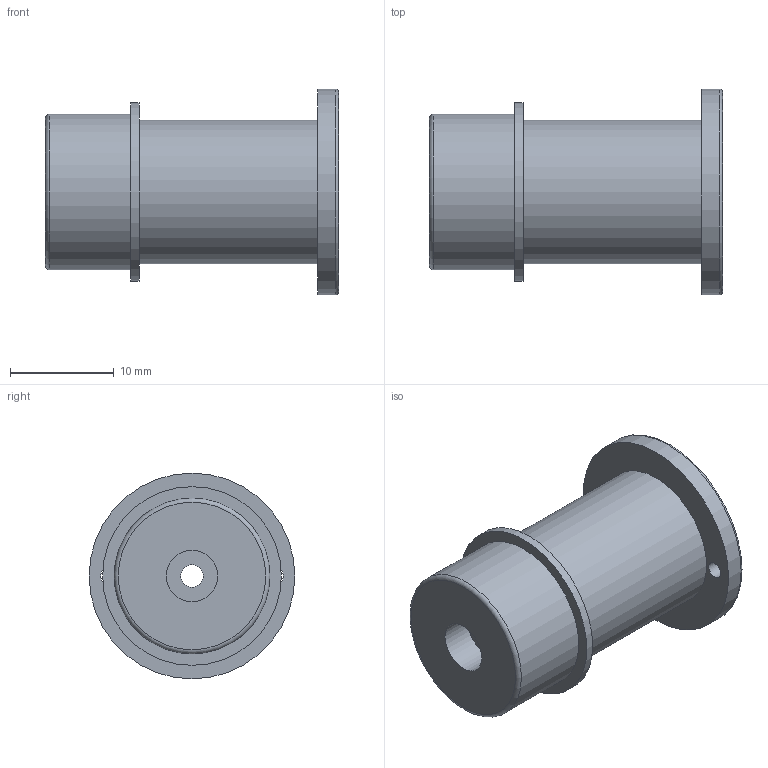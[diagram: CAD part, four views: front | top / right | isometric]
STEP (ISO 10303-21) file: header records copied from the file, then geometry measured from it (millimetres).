
FILE_DESCRIPTION(('Open CASCADE Model'),'2;1');
FILE_NAME('Open CASCADE Shape Model','2026-11-01T16:34:13',('Author'),( 'Open CASCADE'),'Open CASCADE STEP processor 8.0','build123d', 'Unknown');
FILE_SCHEMA(('AUTOMOTIVE_DESIGN { 1 0 10303 214 1 1 1 1 }'));
Length unit declared in the file: millimetre
Products named in the file (1): SOLID
Bounding box: 28.2 x 19.8 x 19.8 mm (x, y, z)
Volume: 4645.9 mm3; surface area: 2365.3 mm2
Topology: 1 solids, 2 shells, 20 faces, 34 edges, 22 vertices
Faces by surface type: cylinder 10, plane 8, torus 2
Full cylindrical faces by diameter (mm): 1.6 x2, 2.2 x1, 5 x1, 11.2 x1, 12 x1, 13.8 x1, 15 x1, 17.2 x1, 19.8 x1
Entity records: 948 total; most frequent: DIRECTION 164, CARTESIAN_POINT 149, ORIENTED_EDGE 68, PCURVE 68, DEFINITIONAL_REPRESENTATION 68, LINE 54, VECTOR 54, AXIS2_PLACEMENT_3D 45
